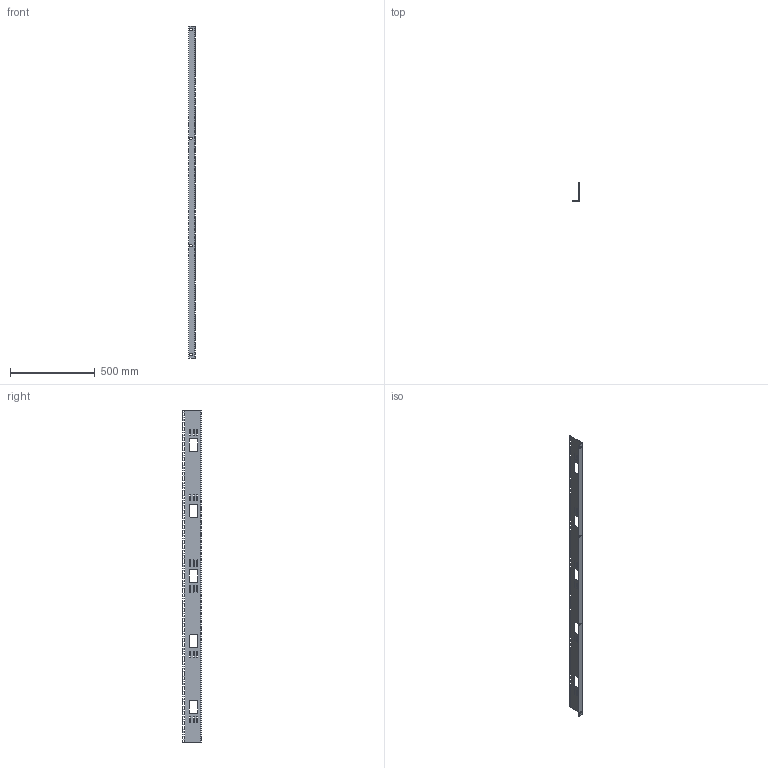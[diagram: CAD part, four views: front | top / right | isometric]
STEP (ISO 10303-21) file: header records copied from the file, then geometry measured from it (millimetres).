
FILE_DESCRIPTION( ( 'Unknown' ), '1' );
FILE_NAME( 'Q:/C4/WEB DRAWINGS/STEP/C4PR77SZPL.stp', 'Unknown', ( 'Unknown' ), ( 'Unknown' ), 'PSStep 11.0', 'Unknown', ' ' );
FILE_SCHEMA( ( 'AUTOMOTIVE_DESIGN { 1 0 10303 214 1 1 1 1 }' ) );
Length unit declared in the file: inch
Products named in the file (1): 1
Bounding box: 38.1 x 111.53 x 1956.56 mm (x, y, z)
Volume: 603572.7 mm3; surface area: 529581 mm2
Topology: 1 solids, 1 shells, 666 faces, 1992 edges, 1328 vertices
Faces by surface type: plane 600, cylinder 66
Entity records: 28048 total; most frequent: CARTESIAN_POINT 3987, ORIENTED_EDGE 3984, DIRECTION 3458, EDGE_CURVE 1992, LINE 1860, VECTOR 1860, VERTEX_POINT 1328, EDGE_LOOP 984
